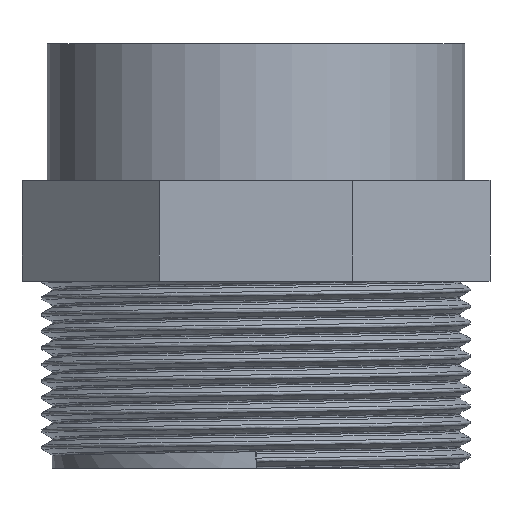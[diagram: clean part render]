
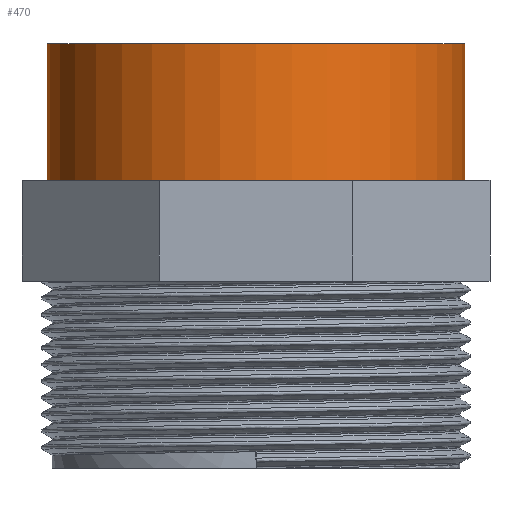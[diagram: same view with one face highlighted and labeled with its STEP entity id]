
A CAD part, front view. The second image highlights one B-rep face of the part: STEP entity #470.
In plain terms, the highlighted cylindrical face has radius 29 mm (diameter 58 mm), a full revolution.
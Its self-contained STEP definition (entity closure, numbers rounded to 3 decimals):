
#17=FACE_BOUND('',#109,.T.);
#24=CYLINDRICAL_SURFACE('',#499,29.);
#49=CIRCLE('',#489,29.);
#50=CIRCLE('',#500,29.);
#77=FACE_OUTER_BOUND('',#108,.T.);
#108=EDGE_LOOP('',(#420));
#109=EDGE_LOOP('',(#421));
#232=VERTEX_POINT('',#9548);
#241=VERTEX_POINT('',#9584);
#288=EDGE_CURVE('',#232,#232,#49,.T.);
#305=EDGE_CURVE('',#241,#241,#50,.T.);
#420=ORIENTED_EDGE('',*,*,#288,.T.);
#421=ORIENTED_EDGE('',*,*,#305,.F.);
#470=ADVANCED_FACE('',(#77,#17),#24,.T.);
#489=AXIS2_PLACEMENT_3D('',#9549,#547,#548);
#499=AXIS2_PLACEMENT_3D('',#9583,#583,#584);
#500=AXIS2_PLACEMENT_3D('',#9585,#585,#586);
#547=DIRECTION('center_axis',(0.,0.,1.));
#548=DIRECTION('ref_axis',(1.,0.,0.));
#583=DIRECTION('center_axis',(0.,0.,1.));
#584=DIRECTION('ref_axis',(1.,0.,0.));
#585=DIRECTION('center_axis',(0.,0.,1.));
#586=DIRECTION('ref_axis',(1.,0.,0.));
#9548=CARTESIAN_POINT('',(29.,0.,40.));
#9549=CARTESIAN_POINT('Origin',(0.,0.,40.));
#9583=CARTESIAN_POINT('Origin',(0.,0.,49.5));
#9584=CARTESIAN_POINT('',(29.,0.,59.));
#9585=CARTESIAN_POINT('Origin',(0.,0.,59.));
